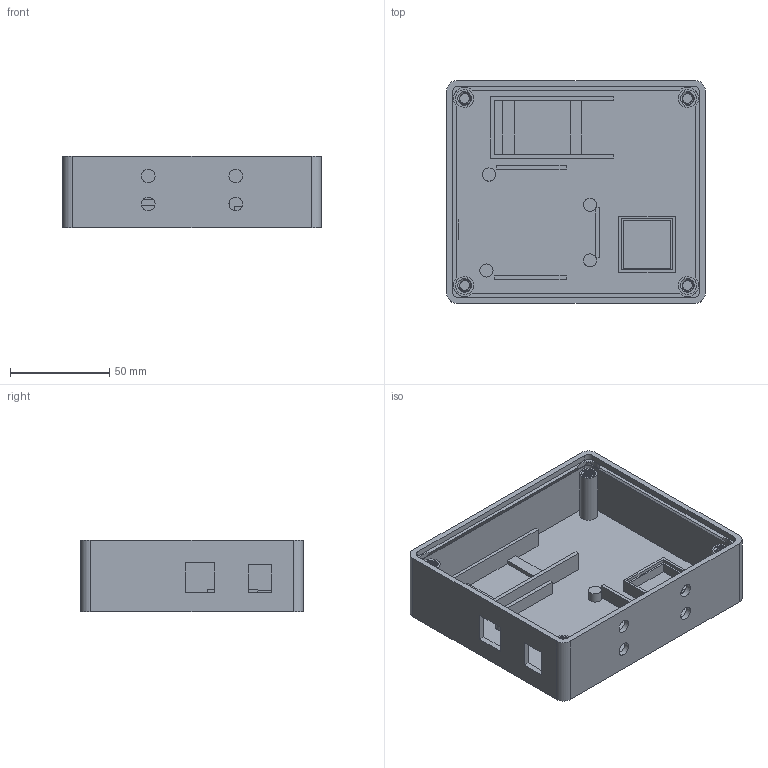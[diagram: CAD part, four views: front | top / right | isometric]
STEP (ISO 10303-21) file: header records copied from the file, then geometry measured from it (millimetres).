
FILE_DESCRIPTION(('Open CASCADE Model'),'2;1');
FILE_NAME('Open CASCADE Shape Model','2026-09-21T16:58:42',('Author'),( 'Open CASCADE'),'Open CASCADE STEP processor 7.9','Open CASCADE 7.9' ,'Unknown');
FILE_SCHEMA(('AUTOMOTIVE_DESIGN { 1 0 10303 214 1 1 1 1 }'));
Length unit declared in the file: millimetre
Products named in the file (1): Open CASCADE STEP translator 7.9 1
Bounding box: 130 x 112 x 36 mm (x, y, z)
Volume: 112795.7 mm3; surface area: 71966.8 mm2
Topology: 1 solids, 1 shells, 170 faces, 436 edges, 288 vertices
Faces by surface type: plane 96, cylinder 54, bspline 12, cone 8
Full cylindrical faces by diameter (mm): 5 x16, 6.6 x2, 6.8 x4, 9 x4
Entity records: 23714 total; most frequent: CARTESIAN_POINT 15377, DIRECTION 1374, ORIENTED_EDGE 872, PCURVE 872, DEFINITIONAL_REPRESENTATION 872, LINE 838, VECTOR 838, EDGE_CURVE 436
